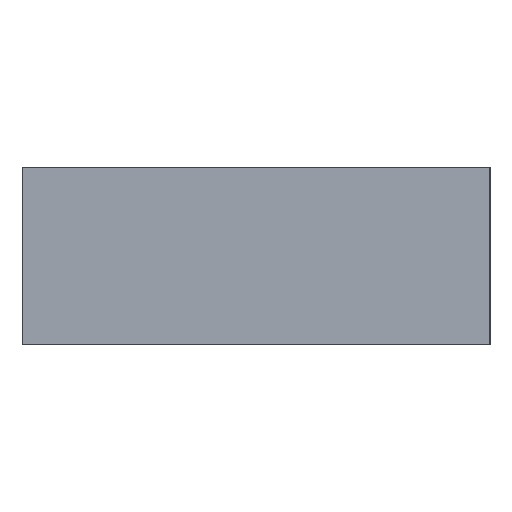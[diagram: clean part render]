
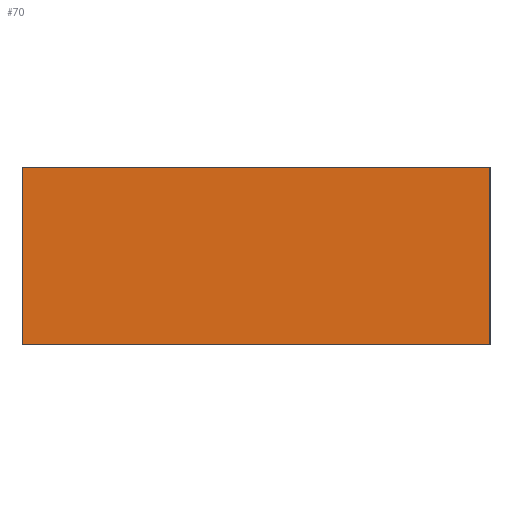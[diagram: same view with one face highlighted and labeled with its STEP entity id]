
A CAD part, left-side view. The second image highlights one B-rep face of the part: STEP entity #70.
In plain terms, the highlighted planar face has unit normal (-1, 0, 0).
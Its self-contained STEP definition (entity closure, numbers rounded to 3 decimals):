
#70 = ADVANCED_FACE( '', ( #149 ), #150, .F. );
#149 = FACE_OUTER_BOUND( '', #238, .T. );
#150 = PLANE( '', #239 );
#238 = EDGE_LOOP( '', ( #371, #372, #373, #374 ) );
#239 = AXIS2_PLACEMENT_3D( '', #375, #376, #377 );
#371 = ORIENTED_EDGE( '', *, *, #561, .T. );
#372 = ORIENTED_EDGE( '', *, *, #562, .F. );
#373 = ORIENTED_EDGE( '', *, *, #563, .F. );
#374 = ORIENTED_EDGE( '', *, *, #564, .T. );
#375 = CARTESIAN_POINT( '', ( -6.55, 0., 6.075 ) );
#376 = DIRECTION( '', ( 1., 0., 0. ) );
#377 = DIRECTION( '', ( 0., 0., -1. ) );
#561 = EDGE_CURVE( '', #679, #680, #681, .T. );
#562 = EDGE_CURVE( '', #682, #680, #683, .T. );
#563 = EDGE_CURVE( '', #684, #682, #685, .T. );
#564 = EDGE_CURVE( '', #684, #679, #686, .T. );
#679 = VERTEX_POINT( '', #839 );
#680 = VERTEX_POINT( '', #840 );
#681 = LINE( '', #841, #842 );
#682 = VERTEX_POINT( '', #843 );
#683 = LINE( '', #844, #845 );
#684 = VERTEX_POINT( '', #846 );
#685 = LINE( '', #847, #848 );
#686 = LINE( '', #849, #850 );
#839 = CARTESIAN_POINT( '', ( -6.55, 0., -6.075 ) );
#840 = CARTESIAN_POINT( '', ( -6.55, -32., -6.075 ) );
#841 = CARTESIAN_POINT( '', ( -6.55, 0., -6.075 ) );
#842 = VECTOR( '', #948, 1000. );
#843 = CARTESIAN_POINT( '', ( -6.55, -32., 6.075 ) );
#844 = CARTESIAN_POINT( '', ( -6.55, -32., 6.075 ) );
#845 = VECTOR( '', #949, 1000. );
#846 = CARTESIAN_POINT( '', ( -6.55, 0., 6.075 ) );
#847 = CARTESIAN_POINT( '', ( -6.55, 0., 6.075 ) );
#848 = VECTOR( '', #950, 1000. );
#849 = CARTESIAN_POINT( '', ( -6.55, 0., 6.075 ) );
#850 = VECTOR( '', #951, 1000. );
#948 = DIRECTION( '', ( 0., -1., 0. ) );
#949 = DIRECTION( '', ( 0., 0., -1. ) );
#950 = DIRECTION( '', ( 0., -1., 0. ) );
#951 = DIRECTION( '', ( 0., 0., -1. ) );
